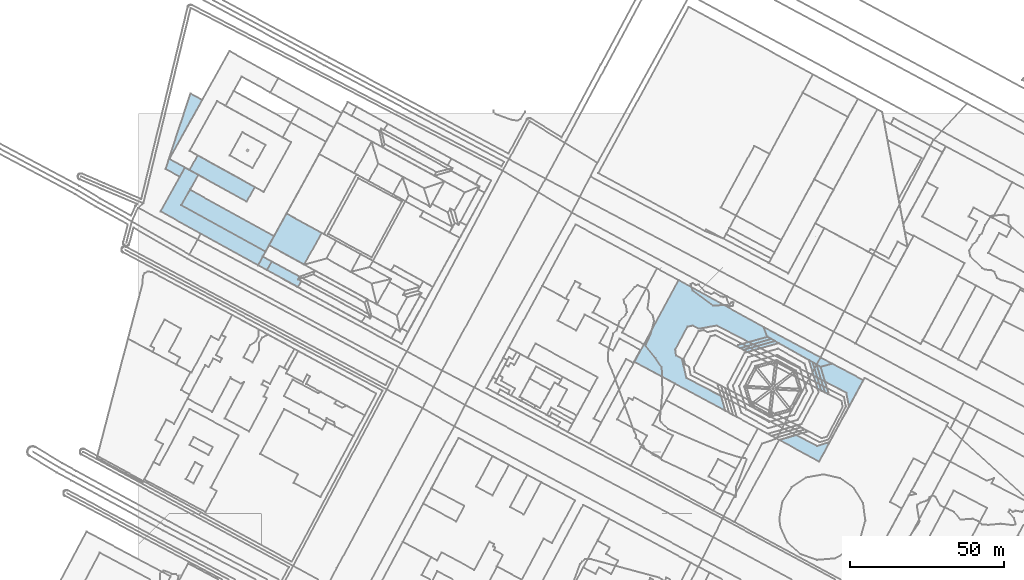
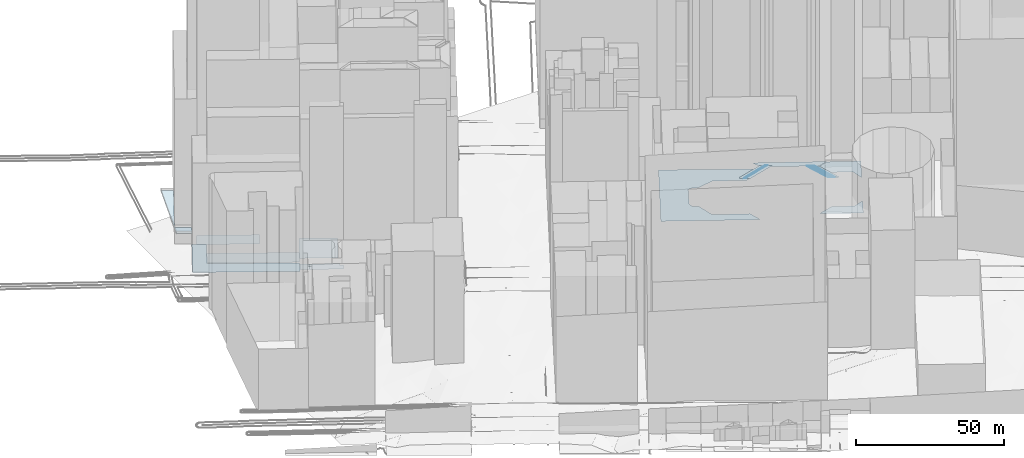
# Not in any storey, part 10 of 80: 17 footings.
"""IFC4 building model written with IfcOpenShell, lengths in metres."""

from ifc_helpers import new_model, si_unit, frame, origin_with_axes, place, context, subcontext, project, spatial, polygons, element, save


model = new_model("IFC4")

# Units and contexts
model_context = context("Model", 3, precision=1e-05, world=origin_with_axes())
body_context = subcontext(model_context, "Body", "Model", "MODEL_VIEW")
ifc_project = project(units=[si_unit("AREAUNIT", "SQUARE_METRE"), si_unit("LENGTHUNIT", "METRE")], contexts=[model_context])

# Sites, building
site_1_placement = place(None, origin_with_axes())
site_1 = spatial("IfcSite", under=ifc_project, at=site_1_placement, Name="Topoexport Site")
site_2_placement = place(site_1_placement, origin_with_axes())
site_2 = spatial("IfcSite", under=site_1, at=site_2_placement, Name="TPX_BATIMENTS")
building_1_placement = place(site_2_placement, frame((161.19127827, 298.8014028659, 19.4608547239), z_axis=(0.0, 0.0, 1.0), x_axis=(1.0, 0.0, 0.0)))
building_1 = spatial("IfcBuilding", under=site_2, at=building_1_placement, Name="Batiment 98", CompositionType="ELEMENT")

# Footing
footing_1_placement = place(None, frame((161.19127827, 298.8014028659, 19.4608547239), z_axis=(0.0, 0.0, 1.0), x_axis=(1.0, 0.0, 0.0)))
element("IfcFooting", 1, at=footing_1_placement, inside=building_1, Name="Sol 0", context=body_context, shape_type="Tessellation", body=[
    polygons([(0.0, 0.0, 0.0), (29.637602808, -15.9646779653, 0.0), (28.2733478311, -11.1621604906, 0.0), (16.9696826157, -5.2983587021, 0.0), (15.5294506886, 0.9576732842, 0.0), (13.5836021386, 2.0563807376, 0.0), (13.3239184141, 4.0628703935, 0.0), (17.2729201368, 11.4584719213, 0.0), (18.9830601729, 11.7559095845, 0.0), (20.8772332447, 10.7454208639, 0.0), (26.7655958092, 11.7908792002, 0.0), (37.1350091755, 6.4158307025, 0.0), (43.2518253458, 8.1411963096, 0.0), (42.0671637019, 11.2915635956, 0.0), (14.3795340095, 26.5350073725, 0.0)], [[[3, 2, 1]], [[6, 5, 4]], [[11, 10, 9]], [[13, 12, 11]], [[15, 14, 13]], [[4, 3, 1]], [[15, 13, 11]], [[6, 4, 1]], [[15, 11, 9]], [[7, 6, 1]], [[15, 9, 8]], [[7, 1, 15]], [[15, 8, 7]]]),
])

# Building
building_2_placement = place(site_2_placement, frame((203.2584419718, 310.0929664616, 21.9404542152), z_axis=(0.0, 0.0, 1.0), x_axis=(1.0, 0.0, 0.0)))
building_2 = spatial("IfcBuilding", under=site_2, at=building_2_placement, Name="Batiment 99", CompositionType="ELEMENT")

# Footing
footing_2_placement = place(None, frame((203.2584419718, 310.0929664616, 21.9404542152), z_axis=(0.0, 0.0, 1.0), x_axis=(1.0, 0.0, 0.0)))
element("IfcFooting", 2, at=footing_2_placement, inside=building_2, Name="Sol 0", context=body_context, shape_type="Tessellation", body=[
    polygons([(0.0, 0.0, 0.0), (1.1846616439, -3.1503672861, 0.0), (18.5101123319, -12.9075972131, 0.0), (22.221026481, -11.8985374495, 0.0)], [[[2, 1, 4]], [[4, 3, 2]]]),
])

# Building
building_3_placement = place(site_2_placement, frame((219.2364479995, 298.6103141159, 22.0370250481), z_axis=(0.0, 0.0, 1.0), x_axis=(1.0, 0.0, 0.0)))
building_3 = spatial("IfcBuilding", under=site_2, at=building_3_placement, Name="Batiment 100", CompositionType="ELEMENT")

# Footing
footing_3_placement = place(None, frame((219.2364479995, 298.6103141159, 22.0370250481), z_axis=(0.0, 0.0, 1.0), x_axis=(1.0, 0.0, 0.0)))
element("IfcFooting", 3, at=footing_3_placement, inside=building_3, Name="Sol 0", context=body_context, shape_type="Tessellation", body=[
    polygons([(0.0, 0.0, 0.0), (2.8171290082, -9.2376195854, 0.0), (4.0061240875, -9.8566187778, 0.0), (1.2661175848, -0.7180229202, 0.0)], [[[2, 1, 4]], [[4, 3, 2]]]),
])

# Building
building_4_placement = place(site_2_placement, frame((220.5025655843, 297.8922911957, 22.020281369), z_axis=(0.0, 0.0, 1.0), x_axis=(1.0, 0.0, 0.0)))
building_4 = spatial("IfcBuilding", under=site_2, at=building_4_placement, Name="Batiment 101", CompositionType="ELEMENT")

# Footing
footing_4_placement = place(None, frame((220.5025655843, 297.8922911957, 22.020281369), z_axis=(0.0, 0.0, 1.0), x_axis=(1.0, 0.0, 0.0)))
element("IfcFooting", 4, at=footing_4_placement, inside=building_4, Name="Sol 0", context=body_context, shape_type="Tessellation", body=[
    polygons([(0.0, 0.0, 0.0), (2.7400065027, -9.1385958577, 0.0), (3.6317852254, -9.6056203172, 0.0), (3.8550238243, -9.20334242, 0.0), (1.2659887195, -0.7069219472, 0.0)], [[[2, 1, 5]], [[4, 3, 2]], [[2, 5, 4]]]),
])

# Building
building_5_placement = place(site_2_placement, frame((221.7685543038, 297.1853692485, 21.8040198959), z_axis=(0.0, 0.0, 1.0), x_axis=(1.0, 0.0, 0.0)))
building_5 = spatial("IfcBuilding", under=site_2, at=building_5_placement, Name="Batiment 102", CompositionType="ELEMENT")

# Footing
footing_5_placement = place(None, frame((221.7685543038, 297.1853692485, 21.8040198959), z_axis=(0.0, 0.0, 1.0), x_axis=(1.0, 0.0, 0.0)))
element("IfcFooting", 5, at=footing_5_placement, inside=building_5, Name="Sol 0", context=body_context, shape_type="Tessellation", body=[
    polygons([(0.0, 0.0, 0.0), (1.4921694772, -4.9120468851, 0.0), (8.354244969, -8.4737691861, 0.0), (9.2151276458, -12.8158404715, 0.0), (13.843917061, -4.3575852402, 0.0), (3.7109141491, 1.0090597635, 0.0)], [[[2, 1, 6]], [[5, 4, 3]], [[2, 6, 5]], [[5, 3, 2]]]),
])

# Building
building_6_placement = place(site_2_placement, frame((208.2008787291, 273.4352760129, 21.5056877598), z_axis=(0.0, 0.0, 1.0), x_axis=(1.0, 0.0, 0.0)))
building_6 = spatial("IfcBuilding", under=site_2, at=building_6_placement, Name="Batiment 103", CompositionType="ELEMENT")

# Footing
footing_6_placement = place(None, frame((208.2008787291, 273.4352760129, 21.5056877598), z_axis=(0.0, 0.0, 1.0), x_axis=(1.0, 0.0, 0.0)))
element("IfcFooting", 6, at=footing_6_placement, inside=building_6, Name="Sol 0", context=body_context, shape_type="Tessellation", body=[
    polygons([(0.0, 0.0, 0.0), (13.0821989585, -7.0865241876, 0.0), (16.451848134, -0.6857371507, 0.0), (12.4573086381, -1.9867536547, 0.0), (5.6462511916, 1.5422641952, 0.0)], [[[2, 1, 5]], [[4, 3, 2]], [[2, 5, 4]]]),
])

# Building
building_7_placement = place(site_2_placement, frame((217.9703306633, 299.3283372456, 22.0589444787), z_axis=(0.0, 0.0, 1.0), x_axis=(1.0, 0.0, 0.0)))
building_7 = spatial("IfcBuilding", under=site_2, at=building_7_placement, Name="Batiment 107", CompositionType="ELEMENT")

# Footing
footing_7_placement = place(None, frame((217.9703306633, 299.3283372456, 22.0589444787), z_axis=(0.0, 0.0, 1.0), x_axis=(1.0, 0.0, 0.0)))
element("IfcFooting", 7, at=footing_7_placement, inside=building_7, Name="Sol 0", context=body_context, shape_type="Tessellation", body=[
    polygons([(0.0, 0.0, 0.0), (2.8432226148, -9.3039300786, 0.0), (4.0832463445, -9.9556427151, 0.0), (1.2661173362, -0.7180231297, 0.0)], [[[2, 1, 4]], [[4, 3, 2]]]),
])

# Building
building_8_placement = place(site_2_placement, frame((41.7800097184, 328.5784664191, 23.4010795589), z_axis=(0.0, 0.0, 1.0), x_axis=(1.0, 0.0, 0.0)))
building_8 = spatial("IfcBuilding", under=site_2, at=building_8_placement, Name="Batiment 152", CompositionType="ELEMENT")

# Footing
footing_8_placement = place(None, frame((41.7800097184, 328.5784664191, 23.4010795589), z_axis=(0.0, 0.0, 1.0), x_axis=(1.0, 0.0, 0.0)))
element("IfcFooting", 8, at=footing_8_placement, inside=building_8, Name="Sol 0", context=body_context, shape_type="Tessellation", body=[
    polygons([(0.0, 0.0, 0.0), (10.0500953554, -5.5121834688, 0.0), (11.1329543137, -3.534514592, 0.0), (10.1390067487, -2.9909401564, 0.0), (10.6265412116, -2.085998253, 0.0), (1.5539020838, 2.8491104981, 0.0)], [[[2, 1, 6]], [[4, 3, 2]], [[6, 5, 4]], [[4, 2, 6]]]),
])

# Building
building_9_placement = place(site_2_placement, frame((194.6888328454, 303.6983377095, 22.4164949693), z_axis=(0.0, 0.0, 1.0), x_axis=(1.0, 0.0, 0.0)))
building_9 = spatial("IfcBuilding", under=site_2, at=building_9_placement, Name="Batiment 261", CompositionType="ELEMENT")

# Footing
footing_9_placement = place(None, frame((194.6888328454, 303.6983377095, 22.4164949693), z_axis=(0.0, 0.0, 1.0), x_axis=(1.0, 0.0, 0.0)))
element("IfcFooting", 9, at=footing_9_placement, inside=building_9, Name="Sol 0", context=body_context, shape_type="Tessellation", body=[
    polygons([(0.0, 0.0, 0.0), (0.8833348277, -0.4671259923, 0.0), (10.9779261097, 2.547946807, 0.0), (9.7542707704, 3.244261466, 0.0), (0.3055768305, 0.5808705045, 0.0)], [[[2, 1, 5]], [[4, 3, 2]], [[2, 5, 4]]]),
])

# Building
building_10_placement = place(site_2_placement, frame((195.5721676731, 303.2312117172, 22.3534216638), z_axis=(0.0, 0.0, 1.0), x_axis=(1.0, 0.0, 0.0)))
building_10 = spatial("IfcBuilding", under=site_2, at=building_10_placement, Name="Batiment 262", CompositionType="ELEMENT")

# Footing
footing_10_placement = place(None, frame((195.5721676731, 303.2312117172, 22.3534216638), z_axis=(0.0, 0.0, 1.0), x_axis=(1.0, 0.0, 0.0)))
element("IfcFooting", 10, at=footing_10_placement, inside=building_10, Name="Sol 0", context=body_context, shape_type="Tessellation", body=[
    polygons([(0.0, 0.0, 0.0), (1.0701818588, -0.5648735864, 0.0), (11.3265579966, 2.3299572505, 0.0), (10.094591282, 3.0150727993, 0.0)], [[[2, 1, 4]], [[4, 3, 2]]]),
])

# Building
building_11_placement = place(site_2_placement, frame((196.642349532, 302.6663381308, 22.285008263), z_axis=(0.0, 0.0, 1.0), x_axis=(1.0, 0.0, 0.0)))
building_11 = spatial("IfcBuilding", under=site_2, at=building_11_placement, Name="Batiment 263", CompositionType="ELEMENT")

# Footing
footing_11_placement = place(None, frame((196.642349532, 302.6663381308, 22.285008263), z_axis=(0.0, 0.0, 1.0), x_axis=(1.0, 0.0, 0.0)))
element("IfcFooting", 11, at=footing_11_placement, inside=building_11, Name="Sol 0", context=body_context, shape_type="Tessellation", body=[
    polygons([(0.0, 0.0, 0.0), (1.290919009, -0.6733292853, 0.0), (11.4462710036, 2.1981239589, 0.0), (10.2563761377, 2.8948308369, 0.0)], [[[2, 1, 4]], [[4, 3, 2]]]),
])

# Building
building_12_placement = place(site_2_placement, frame((42.4543960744, 336.6576310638, 22.8602980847), z_axis=(0.0, 0.0, 1.0), x_axis=(1.0, 0.0, 0.0)))
building_12 = spatial("IfcBuilding", under=site_2, at=building_12_placement, Name="Batiment 298", CompositionType="ELEMENT")

# Footing
footing_12_placement = place(None, frame((42.4543960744, 336.6576310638, 22.8602980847), z_axis=(0.0, 0.0, 1.0), x_axis=(1.0, 0.0, 0.0)))
element("IfcFooting", 12, at=footing_12_placement, inside=building_12, Name="Sol 0", context=body_context, shape_type="Tessellation", body=[
    polygons([(0.0, 0.0, 0.0), (11.4264184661, -6.2733628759, 0.0), (17.1228970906, 4.0290444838, 0.0), (5.6710397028, 10.3132053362, 0.0)], [[[2, 1, 4]], [[4, 3, 2]]]),
])

# Building
building_13_placement = place(site_2_placement, frame((7.1766328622, 347.6946620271, 22.6847044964), z_axis=(0.0, 0.0, 1.0), x_axis=(1.0, 0.0, 0.0)))
building_13 = spatial("IfcBuilding", under=site_2, at=building_13_placement, Name="Batiment 303", CompositionType="ELEMENT")

# Footing
footing_13_placement = place(None, frame((7.1766328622, 347.6946620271, 22.6847044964), z_axis=(0.0, 0.0, 1.0), x_axis=(1.0, 0.0, 0.0)))
element("IfcFooting", 13, at=footing_13_placement, inside=building_13, Name="Sol 0", context=body_context, shape_type="Tessellation", body=[
    polygons([(0.0, 0.0, 0.0), (31.7064559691, -17.5288908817, 0.0), (34.1368527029, -13.1041901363, 0.0), (6.7972554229, 2.0106592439, 0.0), (12.2796097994, 11.8553581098, 0.0), (7.9382167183, 14.2585789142, 0.0)], [[[3, 2, 1]], [[6, 5, 4]], [[4, 3, 1]], [[1, 6, 4]]]),
])

# Building
building_14_placement = place(site_2_placement, frame((16.6101084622, 361.1268202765, 22.7114009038), z_axis=(0.0, 0.0, 1.0), x_axis=(1.0, 0.0, 0.0)))
building_14 = spatial("IfcBuilding", under=site_2, at=building_14_placement, Name="Batiment 304", CompositionType="ELEMENT")

# Footing
footing_14_placement = place(None, frame((16.6101084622, 361.1268202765, 22.7114009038), z_axis=(0.0, 0.0, 1.0), x_axis=(1.0, 0.0, 0.0)))
element("IfcFooting", 14, at=footing_14_placement, inside=building_14, Name="Sol 0", context=body_context, shape_type="Tessellation", body=[
    polygons([(0.0, 0.0, 0.0), (18.5802692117, -10.2649021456, 0.0), (21.23480915, -5.5156355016, 0.0), (2.6544189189, 4.7603606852, 0.0)], [[[2, 1, 4]], [[4, 3, 2]]]),
])

# Building
building_15_placement = place(site_2_placement, frame((13.9738882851, 349.705321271, 22.9265770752), z_axis=(0.0, 0.0, 1.0), x_axis=(1.0, 0.0, 0.0)))
building_15 = spatial("IfcBuilding", under=site_2, at=building_15_placement, Name="Batiment 305", CompositionType="ELEMENT")

# Footing
footing_15_placement = place(None, frame((13.9738882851, 349.705321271, 22.9265770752), z_axis=(0.0, 0.0, 1.0), x_axis=(1.0, 0.0, 0.0)))
element("IfcFooting", 15, at=footing_15_placement, inside=building_15, Name="Sol 0", context=body_context, shape_type="Tessellation", body=[
    polygons([(0.0, 0.0, 0.0), (27.33959728, -15.1148493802, 0.0), (30.1006408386, -10.0867881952, 0.0), (2.7949453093, 5.0173419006, 0.0)], [[[2, 1, 4]], [[4, 3, 2]]]),
])

# Building
building_16_placement = place(site_2_placement, frame((8.8487001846, 361.4586486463, 29.7839697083), z_axis=(0.0, 0.0, 1.0), x_axis=(1.0, 0.0, 0.0)))
building_16 = spatial("IfcBuilding", under=site_2, at=building_16_placement, Name="Batiment 312", CompositionType="ELEMENT")

# Footing
footing_16_placement = place(None, frame((8.8487001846, 361.4586486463, 29.7839697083), z_axis=(0.0, 0.0, 1.0), x_axis=(1.0, 0.0, 0.0)))
element("IfcFooting", 16, at=footing_16_placement, inside=building_16, Name="Sol 0", context=body_context, shape_type="Tessellation", body=[
    polygons([(0.0, 0.0, 0.0), (4.5875730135, -2.5224926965, 0.0), (6.2661493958, 0.494592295, 0.0), (1.2195887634, 3.2893146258, 0.0), (11.8949184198, 22.4535480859, 0.0), (8.0632962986, 24.5740246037, 0.0)], [[[3, 2, 1]], [[6, 5, 4]], [[4, 3, 1]], [[1, 6, 4]]]),
])

# Building
building_17_placement = place(site_2_placement, frame((38.8830888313, 330.1657711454, 23.374337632), z_axis=(0.0, 0.0, 1.0), x_axis=(1.0, 0.0, 0.0)))
building_17 = spatial("IfcBuilding", under=site_2, at=building_17_placement, Name="Batiment 332", CompositionType="ELEMENT")

# Footing
footing_17_placement = place(None, frame((38.8830888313, 330.1657711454, 23.374337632), z_axis=(0.0, 0.0, 1.0), x_axis=(1.0, 0.0, 0.0)))
element("IfcFooting", 17, at=footing_17_placement, inside=building_17, Name="Sol 0", context=body_context, shape_type="Tessellation", body=[
    polygons([(0.0, 0.0, 0.0), (2.8969208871, -1.5873047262, 0.0), (4.4508229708, 1.2618057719, 0.0), (1.5541605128, 2.8269083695, 0.0)], [[[2, 1, 4]], [[4, 3, 2]]]),
])

save(model, "model.ifc")
